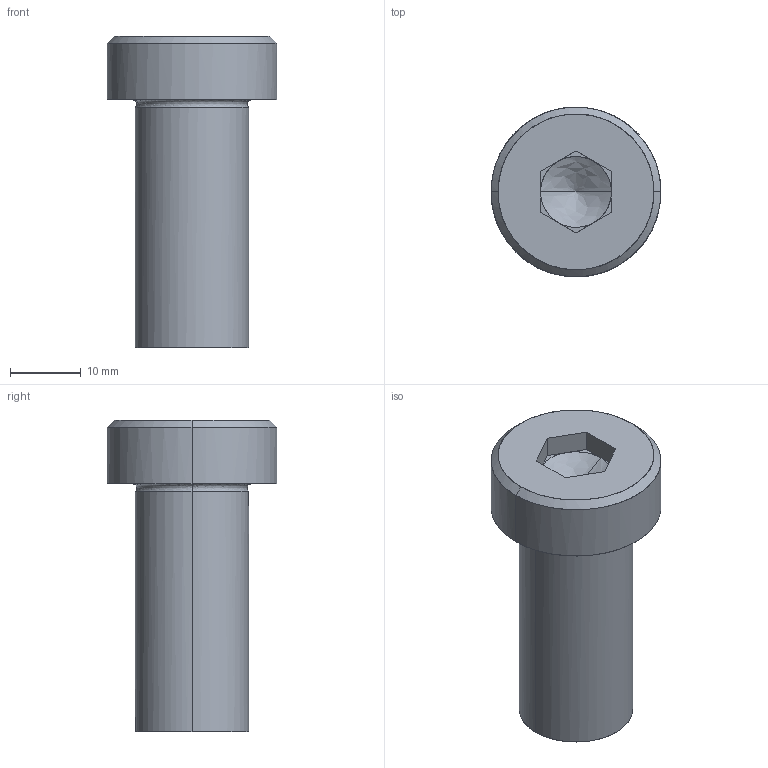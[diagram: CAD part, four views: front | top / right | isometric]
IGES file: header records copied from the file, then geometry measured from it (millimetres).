
Global section: file name: E:\UnigraphicsGraphicData\MISUMI_PRESS-PARTS\IGES\3d_sbtcn16-35_05155_r00.igs; native system: NX V5.0; preprocessor: UGS NX IGES V5.0; author: MISUMI; date: 20110105.162456; units: millimetre
Bounding box: 24 x 24 x 44 mm (x, y, z)
Surface area: 4105.8 mm2 (no closed solid volume)
Topology: 0 solids, 0 shells, 34 faces, 186 edges, 182 vertices
Faces by surface type: bspline 34
